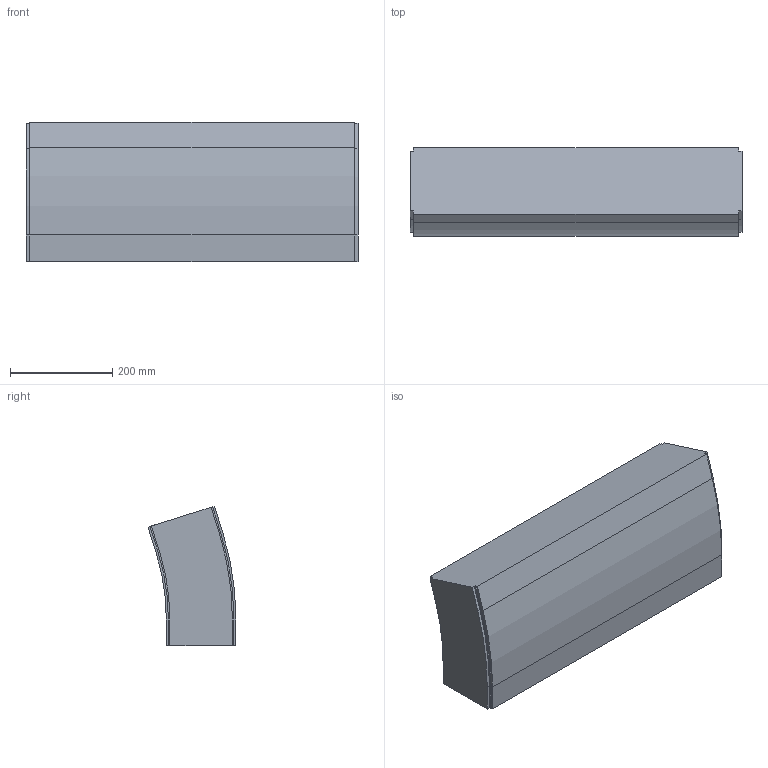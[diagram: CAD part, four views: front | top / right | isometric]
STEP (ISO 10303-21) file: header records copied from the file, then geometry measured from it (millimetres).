
FILE_DESCRIPTION (( 'STEP AP214' ), '1' );
FILE_NAME ('FS-MTC2-150-INOX verticaalbocht.650 17,5°.STEP', '2017-02-08T12:42:10', ( '' ), ( '' ), 'SwSTEP 2.0', 'SolidWorks 2016', '' );
FILE_SCHEMA (( 'AUTOMOTIVE_DESIGN' ));
Length unit declared in the file: millimetre
Products named in the file (1): FS-MTC2-150-INOX verticaalbocht.650 17,5°
Bounding box: 650.5 x 172.27 x 273.45 mm (x, y, z)
Volume: 22832956.3 mm3; surface area: 582840 mm2
Topology: 1 solids, 1 shells, 42 faces, 120 edges, 80 vertices
Faces by surface type: plane 32, cylinder 10
Entity records: 1398 total; most frequent: CARTESIAN_POINT 243, ORIENTED_EDGE 240, DIRECTION 226, EDGE_CURVE 120, LINE 100, VECTOR 100, VERTEX_POINT 80, AXIS2_PLACEMENT_3D 63
